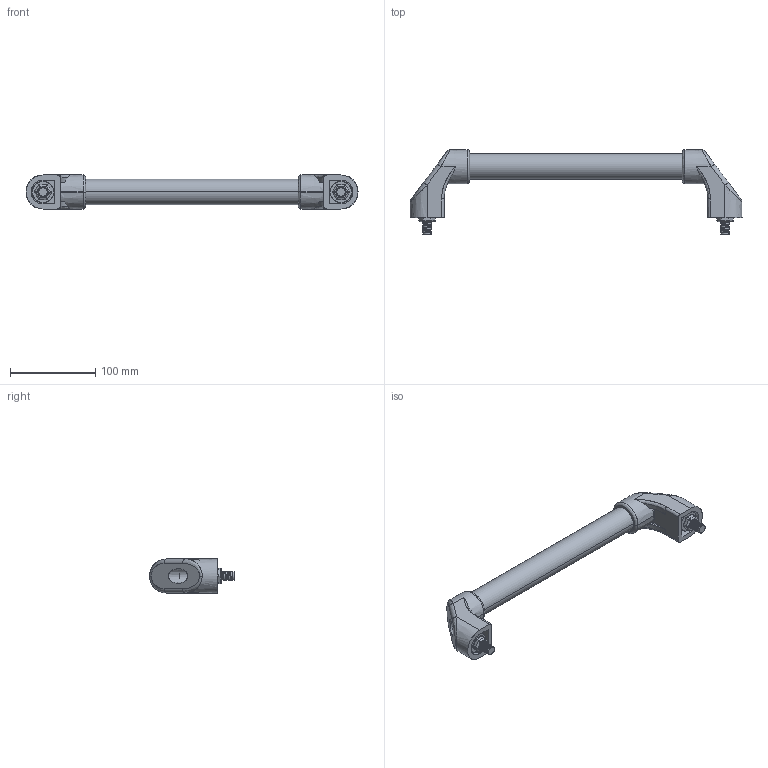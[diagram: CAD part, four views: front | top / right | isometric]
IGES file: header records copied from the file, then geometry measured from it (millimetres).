
Start section: SolidWorks IGES file using analytic representation for surfaces
Global section: file name: C:\Documents and Settings\Deathkiller\桌面\3D IGES\U型把手\MS-737-1-A\p=350.IGS; native system: SolidWorks 2006 by SolidWorks Corporation; preprocessor: SolidWorks 2006 by SolidWorks Corporation; author: Deathkiller; date: 080624.104717; units: millimetre
Bounding box: 390 x 99.5 x 40 mm (x, y, z)
Surface area: 100114 mm2 (no closed solid volume)
Topology: 0 solids, 0 shells, 318 faces, 6130 edges, 6114 vertices
Faces by surface type: revolution 210, bspline 108
